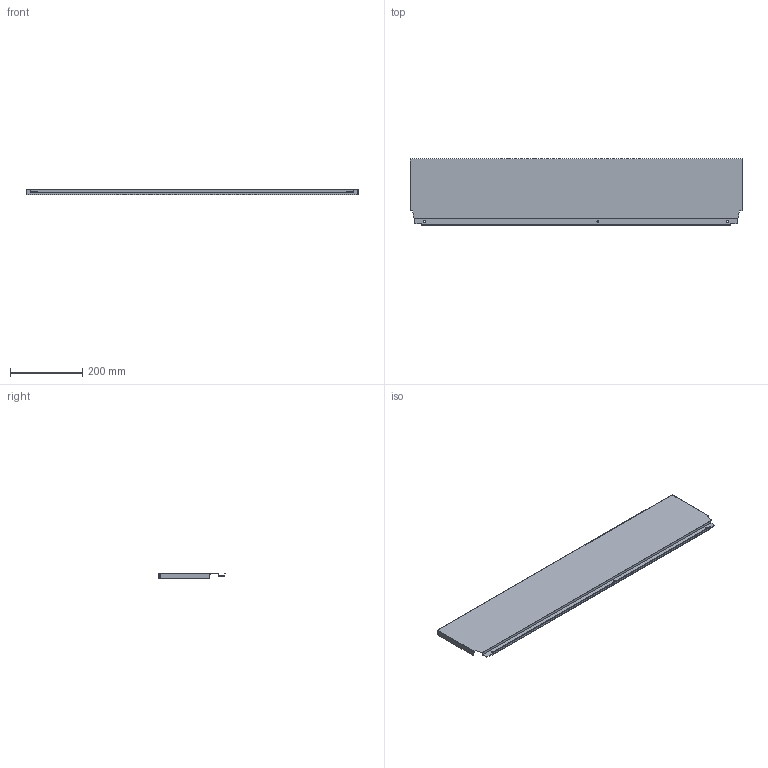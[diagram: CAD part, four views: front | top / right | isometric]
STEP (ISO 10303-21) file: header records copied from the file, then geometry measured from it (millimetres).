
FILE_DESCRIPTION (( 'STEP AP214' ), '1' );
FILE_NAME ('_DWD_XP Stahlrückwand_H182_KAB1000_S16.step', '2010-07-08T12:57:39', ( 'grass' ), ( '' ), 'SwSTEP 2.0', 'SolidWorks 2010', '' );
FILE_SCHEMA (( 'AUTOMOTIVE_DESIGN' ));
Length unit declared in the file: millimetre
Products named in the file (1): _DWD_XP Stahlrückwand_H182_KAB1000_S16
Bounding box: 917 x 182.49 x 16 mm (x, y, z)
Volume: 171854.5 mm3; surface area: 397150.1 mm2
Topology: 1 solids, 1 shells, 46 faces, 132 edges, 88 vertices
Faces by surface type: plane 40, cylinder 6
Entity records: 1534 total; most frequent: CARTESIAN_POINT 267, ORIENTED_EDGE 264, DIRECTION 238, EDGE_CURVE 132, LINE 120, VECTOR 120, VERTEX_POINT 88, AXIS2_PLACEMENT_3D 59
